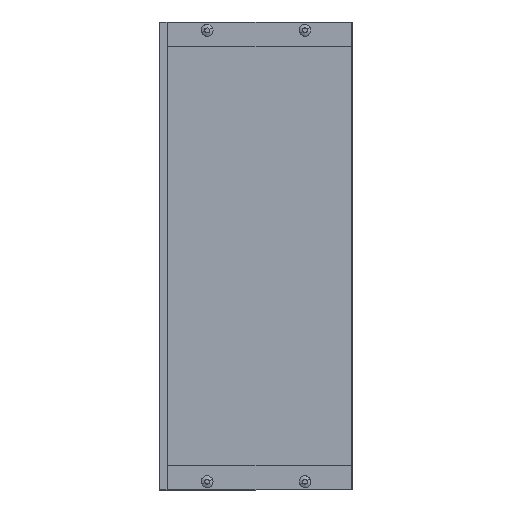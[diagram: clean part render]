
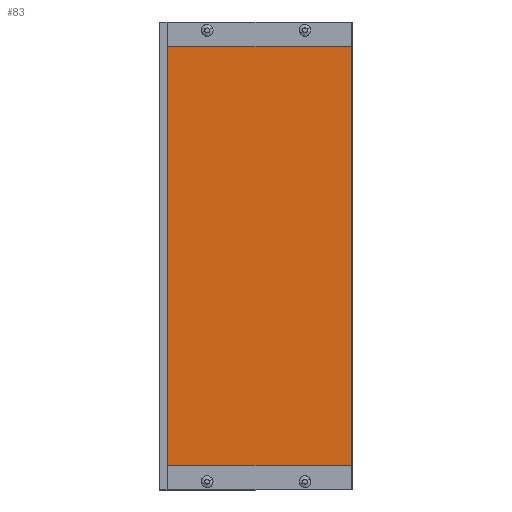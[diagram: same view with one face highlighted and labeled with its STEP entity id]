
A CAD part, front view. The second image highlights one B-rep face of the part: STEP entity #83.
In plain terms, the highlighted planar face has unit normal (0, -1, 0).
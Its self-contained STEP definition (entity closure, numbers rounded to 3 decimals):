
#29 = CARTESIAN_POINT ( 'NONE',  ( 188.6, 61.1, 25. ) ) ;
#83 = ADVANCED_FACE ( 'NONE', ( #2101 ), #1121, .F. ) ;
#185 = VECTOR ( 'NONE', #230, 1000. ) ;
#230 = DIRECTION ( 'NONE',  ( -1., 0., 0. ) ) ;
#235 = CARTESIAN_POINT ( 'NONE',  ( 188.6, 61.1, 479. ) ) ;
#263 = CARTESIAN_POINT ( 'NONE',  ( 0., 61.1, 454. ) ) ;
#318 = AXIS2_PLACEMENT_3D ( 'NONE', #2136, #870, #3130 ) ;
#348 = LINE ( 'NONE', #2616, #611 ) ;
#437 = CARTESIAN_POINT ( 'NONE',  ( -8., 61.1, 25. ) ) ;
#611 = VECTOR ( 'NONE', #874, 1000. ) ;
#654 = VECTOR ( 'NONE', #2241, 1000. ) ;
#749 = ORIENTED_EDGE ( 'NONE', *, *, #2535, .T. ) ;
#764 = ORIENTED_EDGE ( 'NONE', *, *, #2726, .T. ) ;
#770 = EDGE_CURVE ( 'NONE', #2826, #1564, #3207, .T. ) ;
#870 = DIRECTION ( 'NONE',  ( 0., 1., 0. ) ) ;
#873 = CARTESIAN_POINT ( 'NONE',  ( 188.6, 61.1, 454. ) ) ;
#874 = DIRECTION ( 'NONE',  ( 0., 0., -1. ) ) ;
#1121 = PLANE ( 'NONE',  #318 ) ;
#1290 = LINE ( 'NONE', #263, #185 ) ;
#1564 = VERTEX_POINT ( 'NONE', #873 ) ;
#1716 = CARTESIAN_POINT ( 'NONE',  ( -6.6, 61.1, 454. ) ) ;
#1917 = EDGE_LOOP ( 'NONE', ( #2503, #2081, #764, #749 ) ) ;
#2081 = ORIENTED_EDGE ( 'NONE', *, *, #770, .T. ) ;
#2101 = FACE_OUTER_BOUND ( 'NONE', #1917, .T. ) ;
#2136 = CARTESIAN_POINT ( 'NONE',  ( -8., 61.1, 479. ) ) ;
#2241 = DIRECTION ( 'NONE',  ( -1., 0., 0. ) ) ;
#2307 = EDGE_CURVE ( 'NONE', #2826, #2766, #2710, .T. ) ;
#2503 = ORIENTED_EDGE ( 'NONE', *, *, #2307, .F. ) ;
#2535 = EDGE_CURVE ( 'NONE', #3171, #2766, #348, .T. ) ;
#2616 = CARTESIAN_POINT ( 'NONE',  ( -6.6, 61.1, 479. ) ) ;
#2710 = LINE ( 'NONE', #437, #654 ) ;
#2726 = EDGE_CURVE ( 'NONE', #1564, #3171, #1290, .T. ) ;
#2766 = VERTEX_POINT ( 'NONE', #3059 ) ;
#2826 = VERTEX_POINT ( 'NONE', #29 ) ;
#3015 = DIRECTION ( 'NONE',  ( 0., 0., 1. ) ) ;
#3059 = CARTESIAN_POINT ( 'NONE',  ( -6.6, 61.1, 25. ) ) ;
#3130 = DIRECTION ( 'NONE',  ( 0., 0., 1. ) ) ;
#3160 = VECTOR ( 'NONE', #3015, 1000. ) ;
#3171 = VERTEX_POINT ( 'NONE', #1716 ) ;
#3207 = LINE ( 'NONE', #235, #3160 ) ;
